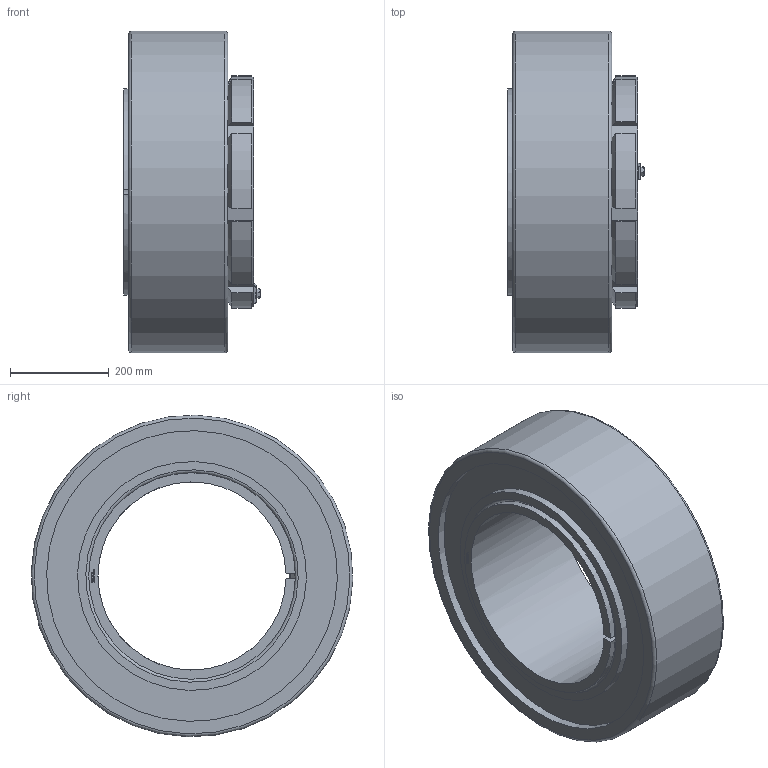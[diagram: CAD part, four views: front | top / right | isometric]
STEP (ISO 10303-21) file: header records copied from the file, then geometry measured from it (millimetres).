
FILE_DESCRIPTION( ( 'STEP AP203' ), ' ' );
FILE_NAME( 'p:/temp/worker_324/4592_4640/app_90_02016102820185845306419192d056f_000000_00_00_000000/format_0/BGL H 3180 TL+23180K.stp', '2016-10-28T18:19:01', ( '' ), ( '' ), ' ', 'PARTsolutions', ' ' );
FILE_SCHEMA( ( 'CONFIG_CONTROL_DESIGN' ) );
Length unit declared in the file: millimetre
Products named in the file (6): BGL H 3180 TL+23180K; _BGLH3180TLB; _BGL HM 3080; _BGLH3180TL+H-23180K; _BGL MS 3076-BGL MS 3080part; _BGL MS 3076-BGL MS 3080HHS
Assembly tree (5 placements, depth 2):
  BGL H 3180 TL+23180K
    _BGLH3180TLB
    _BGL HM 3080
    _BGLH3180TL+H-23180K
    _BGL MS 3076-BGL MS 3080part
    _BGL MS 3076-BGL MS 3080HHS
Bounding box: 275.36 x 649.78 x 649.78 mm (x, y, z)
Volume: 43300909.1 mm3; surface area: 2085454.1 mm2
Topology: 5 solids, 5 shells, 351 faces, 899 edges, 589 vertices
Faces by surface type: plane 230, cylinder 79, cone 38, torus 4
Full cylindrical faces by diameter (mm): 10 x9, 12 x1, 18.1 x1, 395 x1, 462.5 x2, 587.5 x2, 650 x1
Entity records: 10770 total; most frequent: CARTESIAN_POINT 2112, DIRECTION 1729, ORIENTED_EDGE 1726, EDGE_CURVE 863, VERTEX_POINT 586, AXIS2_PLACEMENT_3D 577, LINE 575, VECTOR 575
